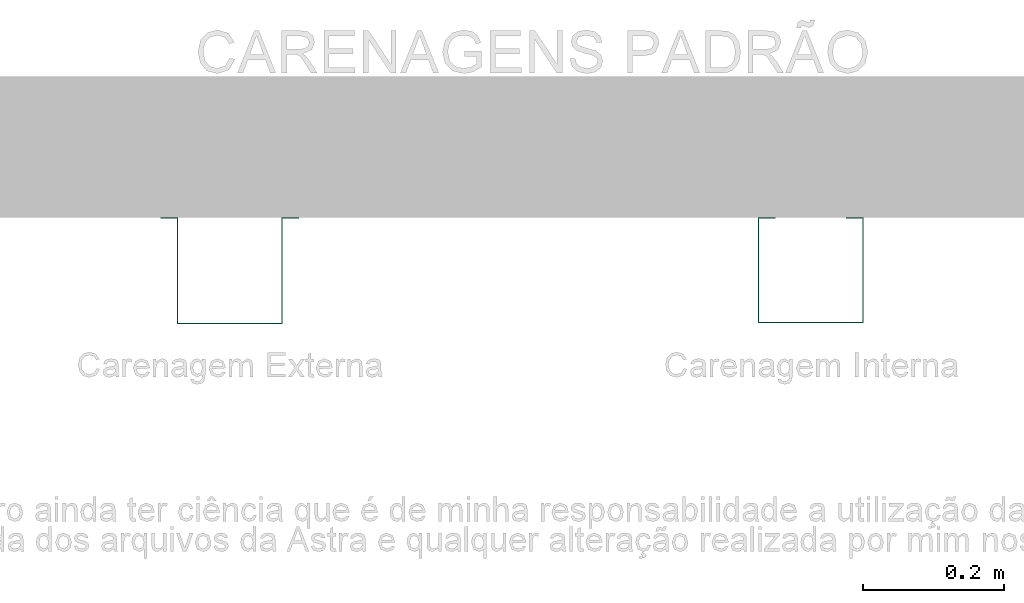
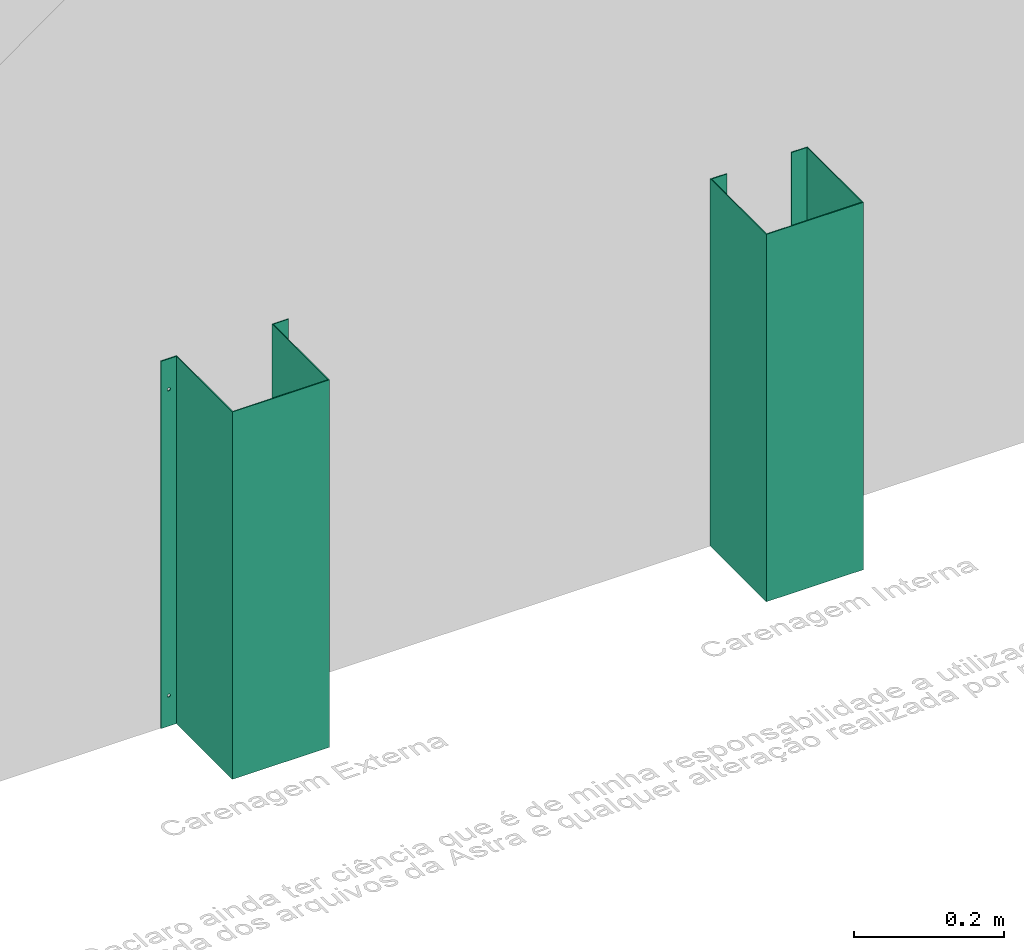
# One storey, part 2 of 5: 2 flow terminals, 4 openings.
"""IFC2X3 building model written with IfcOpenShell, lengths in millimetres."""

from ifc_helpers import new_model, entity, si_unit, converted_unit, derived_unit, direction, frame, frame_2d, origin, origin_2d_with_axis, place, context, subcontext, project, spatial, polyline, circle, outline, extrude, source, transform, mapped, material, type_object, type_shapes, element, save


model = new_model("IFC2X3")

# Units and contexts
model_context = context("Model", 3, precision=0.01, world=origin(), true_north=direction((6.12303176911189e-17, 1.0)))
body_context = subcontext(model_context, "Body", "Model", "MODEL_VIEW")
ifc_project = project(units=[si_unit("LENGTHUNIT", "METRE", prefix="MILLI"), si_unit("AREAUNIT", "SQUARE_METRE"), si_unit("VOLUMEUNIT", "CUBIC_METRE"), converted_unit("PLANEANGLEUNIT", "DEGREE", entity("IfcRatioMeasure", 0.0174532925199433), si_unit("PLANEANGLEUNIT", "RADIAN"), dimensions=[0, 0, 0, 0, 0, 0, 0]), si_unit("MASSUNIT", "GRAM", prefix="KILO"), derived_unit("MASSDENSITYUNIT", [(si_unit("MASSUNIT", "GRAM", prefix="KILO"), 1), (si_unit("LENGTHUNIT", "METRE"), -3)]), derived_unit("MOMENTOFINERTIAUNIT", [(si_unit("LENGTHUNIT", "METRE"), 4)]), si_unit("TIMEUNIT", "SECOND"), si_unit("FREQUENCYUNIT", "HERTZ"), si_unit("THERMODYNAMICTEMPERATUREUNIT", "DEGREE_CELSIUS"), derived_unit("THERMALTRANSMITTANCEUNIT", [(si_unit("MASSUNIT", "GRAM", prefix="KILO"), 1), (si_unit("THERMODYNAMICTEMPERATUREUNIT", "KELVIN"), -1), (si_unit("TIMEUNIT", "SECOND"), -3)]), derived_unit("VOLUMETRICFLOWRATEUNIT", [(si_unit("LENGTHUNIT", "METRE"), 3), (si_unit("TIMEUNIT", "SECOND"), -1)]), si_unit("ELECTRICCURRENTUNIT", "AMPERE"), si_unit("ELECTRICVOLTAGEUNIT", "VOLT"), si_unit("POWERUNIT", "WATT"), si_unit("FORCEUNIT", "NEWTON", prefix="KILO"), si_unit("ILLUMINANCEUNIT", "LUX"), si_unit("LUMINOUSFLUXUNIT", "LUMEN"), si_unit("LUMINOUSINTENSITYUNIT", "CANDELA"), derived_unit("USERDEFINED", [(si_unit("MASSUNIT", "GRAM", prefix="KILO"), -1), (si_unit("LENGTHUNIT", "METRE"), -2), (si_unit("TIMEUNIT", "SECOND"), 3), (si_unit("LUMINOUSFLUXUNIT", "LUMEN"), 1)]), derived_unit("LINEARVELOCITYUNIT", [(si_unit("LENGTHUNIT", "METRE"), 1), (si_unit("TIMEUNIT", "SECOND"), -1)]), si_unit("PRESSUREUNIT", "PASCAL"), derived_unit("USERDEFINED", [(si_unit("LENGTHUNIT", "METRE"), -2), (si_unit("MASSUNIT", "GRAM", prefix="KILO"), 1), (si_unit("TIMEUNIT", "SECOND"), -2)]), derived_unit("LINEARFORCEUNIT", [(si_unit("MASSUNIT", "GRAM", prefix="KILO"), 1), (si_unit("LENGTHUNIT", "METRE"), 1), (si_unit("TIMEUNIT", "SECOND"), -2), (si_unit("LENGTHUNIT", "METRE"), -1)]), derived_unit("PLANARFORCEUNIT", [(si_unit("MASSUNIT", "GRAM", prefix="KILO"), 1), (si_unit("LENGTHUNIT", "METRE"), 1), (si_unit("TIMEUNIT", "SECOND"), -2), (si_unit("LENGTHUNIT", "METRE"), -2)])], contexts=[model_context])

# Site, building, storey
site_placement = place(None, origin())
site = spatial("IfcSite", under=ifc_project, at=site_placement, Name="Default", CompositionType="ELEMENT")
building_placement = place(site_placement, origin())
building = spatial("IfcBuilding", under=site, at=building_placement, CompositionType="ELEMENT")
storey_placement = place(building_placement, origin())
storey = spatial("IfcBuildingStorey", under=building, at=storey_placement, Name="Vista Principal", CompositionType="ELEMENT", Elevation=0.0)

# Flow terminal, openings
ifc_material = material(Name="PS Branco")
distribution_element_type_1 = type_object("IfcDistributionElementType", Name="Carenagem - Aba Externa:Carenagem 600x150x150mm", material=ifc_material)
shared_shape_1 = source(origin(), body_context, "Body", "SweptSolid", [
    extrude(outline(polyline([(49.2499999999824, -98.4999999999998), (50.7499999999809, -98.4999999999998), (50.7499999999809, -73.5000000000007), (-99.2499999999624, -73.5000000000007), (-99.2499999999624, 73.5000000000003), (50.7499999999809, 73.5000000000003), (50.7499999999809, 98.5000000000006), (49.2499999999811, 98.5000000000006), (49.2499999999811, 75.0), (-100.749999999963, 75.0), (-100.749999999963, -75.0), (49.2499999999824, -75.0), (49.2499999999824, -98.4999999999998)])), frame((125.0, 150.749999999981, 0.0), z_axis=(0.0, 0.0, 1.0), x_axis=(0.0, -1.0, 0.0)), (0.0, 0.0, 1.0), 600.0),
])
type_shapes(distribution_element_type_1, [shared_shape_1])
flow_terminal_1_placement = place(storey_placement, frame((-10496.7840870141, 5665.50227872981, 0.0), z_axis=(0.0, 0.0, 1.0), x_axis=(-1.0, 0.0, 0.0)))
flow_terminal_1 = element("IfcFlowTerminal", 1, at=flow_terminal_1_placement, inside=storey, type_object=distribution_element_type_1, material=ifc_material, Name="Carenagem - Aba Externa:Carenagem 600x150x150mm", ObjectType="Carenagem - Aba Externa:Carenagem 600x150x150mm", context=body_context, shape_type="MappedRepresentation", body=[
    mapped(shared_shape_1, transform((0.0, 0.0, 0.0), scale=1.0)),
])
opening_1_placement = place(storey_placement, frame((-10496.7840870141, 5665.50227872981, 0.0)))
element("IfcOpeningElement", 2, at=opening_1_placement, cuts=flow_terminal_1, Name="Carenagem - Aba Externa:Carenagem 600x150x150mm:1", ObjectType="Opening", context=body_context, shape_type="SweptSolid", body=[
    extrude(circle(Radius=2.49999999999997, at=frame_2d((0.0, -1.69197988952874e-14), x_axis=(1.0, 0.0))), frame((-211.499999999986, -100.0, 50.0), z_axis=(0.0, -1.0, 0.0), x_axis=(-1.0, 0.0, 0.0)), (0.0, 0.0, 1.0), 1.49999999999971),
])
opening_2_placement = place(storey_placement, frame((-10496.7840870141, 5665.50227872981, 0.0)))
element("IfcOpeningElement", 3, at=opening_2_placement, cuts=flow_terminal_1, Name="Carenagem - Aba Externa:Carenagem 600x150x150mm:2", ObjectType="Opening", context=body_context, shape_type="SweptSolid", body=[
    extrude(circle(Radius=2.49999999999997, at=origin_2d_with_axis()), frame((-211.499999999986, -100.0, 550.0), z_axis=(0.0, -1.0, 0.0), x_axis=(-1.0, 0.0, 0.0)), (0.0, 0.0, 1.0), 1.49999999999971),
])
opening_3_placement = place(storey_placement, frame((-10496.7840870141, 5665.50227872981, 0.0)))
element("IfcOpeningElement", 4, at=opening_3_placement, cuts=flow_terminal_1, Name="Carenagem - Aba Externa:Carenagem 600x150x150mm:3", ObjectType="Opening", context=body_context, shape_type="SweptSolid", body=[
    extrude(circle(Radius=2.49999999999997, at=origin_2d_with_axis()), frame((-38.4999999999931, -100.0, 50.0), z_axis=(0.0, -1.0, 0.0), x_axis=(-1.0, 0.0, 0.0)), (0.0, 0.0, 1.0), 1.49999999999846),
])
opening_4_placement = place(storey_placement, frame((-10496.7840870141, 5665.50227872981, 0.0)))
element("IfcOpeningElement", 5, at=opening_4_placement, cuts=flow_terminal_1, Name="Carenagem - Aba Externa:Carenagem 600x150x150mm:4", ObjectType="Opening", context=body_context, shape_type="SweptSolid", body=[
    extrude(circle(Radius=2.49999999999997, at=origin_2d_with_axis()), frame((-38.4999999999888, -100.0, 550.0), z_axis=(0.0, -1.0, 0.0), x_axis=(-1.0, 0.0, 0.0)), (0.0, 0.0, 1.0), 1.49999999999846),
])

# Flow terminal
distribution_element_type_2 = type_object("IfcDistributionElementType", Name="Carenagem - Aba Interna:Carenagem 600x150x150mm", material=ifc_material)
shared_shape_2 = source(origin(), body_context, "Body", "SweptSolid", [
    extrude(outline(polyline([(-98.2499999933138, -73.5000000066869), (-98.2499999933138, 73.5000000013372), (48.7499999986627, 73.5000000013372), (48.7499999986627, 50.0), (50.2499999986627, 50.0), (50.2499999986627, 75.0), (-99.7500000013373, 75.0), (-99.7500000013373, -75.0), (50.2499999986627, -75.0), (50.2499999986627, -50.0), (48.7499999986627, -50.0), (48.7499999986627, -73.5000000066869), (-98.2499999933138, -73.5000000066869)])), frame((125.0, 150.249999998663, 0.0), z_axis=(0.0, 0.0, -1.0), x_axis=(0.0, -1.0, 0.0)), (0.0, 0.0, -1.0), 600.0),
])
type_shapes(distribution_element_type_2, [shared_shape_2])
flow_terminal_2_placement = place(storey_placement, frame((-9671.28408701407, 5665.50227872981, 0.0), z_axis=(0.0, 0.0, 1.0), x_axis=(-1.0, 0.0, 0.0)))
element("IfcFlowTerminal", 6, at=flow_terminal_2_placement, inside=storey, type_object=distribution_element_type_2, material=ifc_material, Name="Carenagem - Aba Interna:Carenagem 600x150x150mm", ObjectType="Carenagem - Aba Interna:Carenagem 600x150x150mm", context=body_context, shape_type="MappedRepresentation", body=[
    mapped(shared_shape_2, transform((0.0, 0.0, 0.0), scale=1.0)),
])

save(model, "model.ifc")
